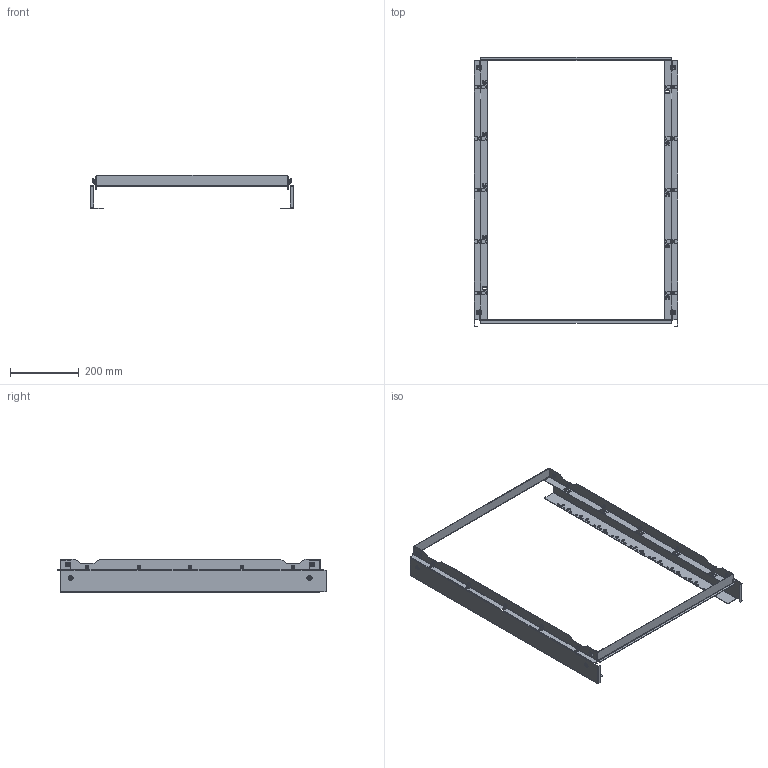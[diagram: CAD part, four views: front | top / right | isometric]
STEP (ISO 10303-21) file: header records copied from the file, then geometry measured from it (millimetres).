
FILE_DESCRIPTION (( 'STEP AP203' ), '1' );
FILE_NAME ('R5STMF86.STEP', '2022-04-13T09:39:14', ( '' ), ( '' ), 'SwSTEP 2.0', 'SolidWorks 2020', '' );
FILE_SCHEMA (( 'CONFIG_CONTROL_DESIGN' ));
Length unit declared in the file: millimetre
Products named in the file (11): M4 MGR-MKO-0420_straight; M6 A3400002 Zinc_straight; RB.2134.00.00.0_-04; RB.2135.00.01.0_-04; RB.2135.00.00.0 捘_-04; M4x8 DIN 965 PH cl.4,8 Zinc_straight; RB.2134.00.00.0_-12; RB.2136.00.00.0_-03; R5STMF86; M6 DIN 6923 cl.8,0 Zinc_straight; M6x12 DIN 965 PH cl.4,8 Zinc_stright
Assembly tree (34 placements, depth 3):
  R5STMF86
    RB.2134.00.00.0_-04
    RB.2135.00.00.0 捘_-04  x2
      RB.2135.00.01.0_-04
      M4 MGR-MKO-0420_straight
    RB.2136.00.00.0_-03  x2
    RB.2134.00.00.0_-12
    M6 A3400002 Zinc_straight  x4
    M6x12 DIN 965 PH cl.4,8 Zinc_stright  x4
    M4x8 DIN 965 PH cl.4,8 Zinc_straight  x10
    M6 DIN 6923 cl.8,0 Zinc_straight  x4
Bounding box: 593.6 x 786.4 x 96.67 mm (x, y, z)
Volume: 481874.6 mm3; surface area: 665880.4 mm2
Topology: 38 solids, 38 shells, 2344 faces, 6142 edges, 3838 vertices
Faces by surface type: plane 1176, cylinder 840, cone 244, bspline 48, torus 36
Entity records: 36059 total; most frequent: CARTESIAN_POINT 6497, DIRECTION 5884, ORIENTED_EDGE 5744, EDGE_CURVE 2872, AXIS2_PLACEMENT_3D 2045, VERTEX_POINT 1812, LINE 1794, VECTOR 1794
